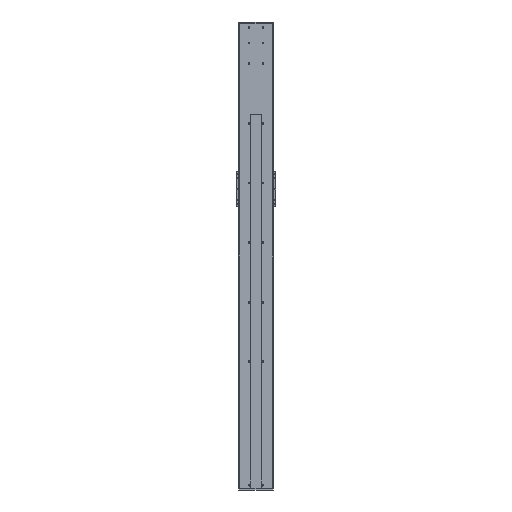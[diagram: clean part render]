
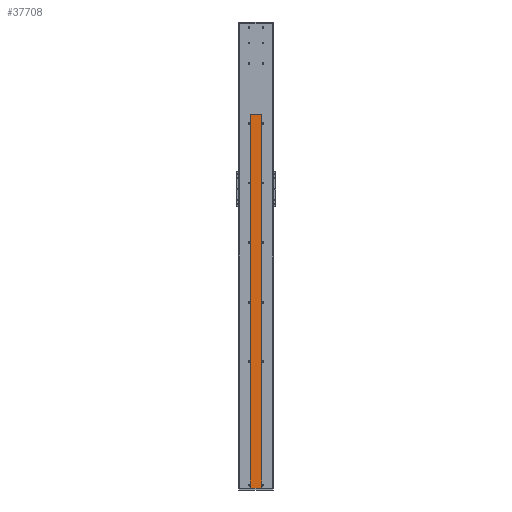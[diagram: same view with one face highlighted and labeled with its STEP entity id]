
A CAD part, front view. The second image highlights one B-rep face of the part: STEP entity #37708.
In plain terms, the highlighted planar face has unit normal (0, -1, 0).
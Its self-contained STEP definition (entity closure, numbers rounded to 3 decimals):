
#1836 = CARTESIAN_POINT ( 'NONE',  ( 1.27, -85.314, 455. ) ) ;
#4502 = EDGE_CURVE ( 'NONE', #34523, #43912, #14681, .T. ) ;
#4838 = VECTOR ( 'NONE', #41264, 1000. ) ;
#5065 = VECTOR ( 'NONE', #15401, 1000. ) ;
#6588 = FACE_OUTER_BOUND ( 'NONE', #16798, .T. ) ;
#6606 = CARTESIAN_POINT ( 'NONE',  ( 58.27, -85.314, 2335. ) ) ;
#9426 = PLANE ( 'NONE',  #33302 ) ;
#9720 = DIRECTION ( 'NONE',  ( 0., 1., 0. ) ) ;
#10036 = CARTESIAN_POINT ( 'NONE',  ( 1.27, -85.314, 455. ) ) ;
#10197 = CARTESIAN_POINT ( 'NONE',  ( 58.27, -85.314, 455. ) ) ;
#12771 = EDGE_CURVE ( 'NONE', #29941, #43912, #37094, .T. ) ;
#13736 = ORIENTED_EDGE ( 'NONE', *, *, #33534, .T. ) ;
#14681 = LINE ( 'NONE', #24879, #39833 ) ;
#15401 = DIRECTION ( 'NONE',  ( 0., 0., 1. ) ) ;
#16282 = CARTESIAN_POINT ( 'NONE',  ( 1.27, -85.314, 455. ) ) ;
#16798 = EDGE_LOOP ( 'NONE', ( #40535, #45009, #25790, #13736 ) ) ;
#24879 = CARTESIAN_POINT ( 'NONE',  ( 1.27, -85.314, 2335. ) ) ;
#25790 = ORIENTED_EDGE ( 'NONE', *, *, #46307, .F. ) ;
#27818 = CARTESIAN_POINT ( 'NONE',  ( 1.27, -85.314, 2335. ) ) ;
#29941 = VERTEX_POINT ( 'NONE', #1836 ) ;
#31101 = CARTESIAN_POINT ( 'NONE',  ( 1.27, -85.314, 455. ) ) ;
#31121 = LINE ( 'NONE', #16282, #4838 ) ;
#33302 = AXIS2_PLACEMENT_3D ( 'NONE', #31101, #9720, #34695 ) ;
#33534 = EDGE_CURVE ( 'NONE', #40228, #34523, #33564, .T. ) ;
#33564 = LINE ( 'NONE', #40396, #5065 ) ;
#34523 = VERTEX_POINT ( 'NONE', #6606 ) ;
#34695 = DIRECTION ( 'NONE',  ( 0., 0., 1. ) ) ;
#37094 = LINE ( 'NONE', #10036, #45427 ) ;
#37708 = ADVANCED_FACE ( 'NONE', ( #6588 ), #9426, .F. ) ;
#38621 = DIRECTION ( 'NONE',  ( 0., 0., 1. ) ) ;
#38966 = DIRECTION ( 'NONE',  ( -1., 0., 0. ) ) ;
#39833 = VECTOR ( 'NONE', #38966, 1000. ) ;
#40228 = VERTEX_POINT ( 'NONE', #10197 ) ;
#40396 = CARTESIAN_POINT ( 'NONE',  ( 58.27, -85.314, 455. ) ) ;
#40535 = ORIENTED_EDGE ( 'NONE', *, *, #4502, .T. ) ;
#41264 = DIRECTION ( 'NONE',  ( -1., 0., 0. ) ) ;
#43912 = VERTEX_POINT ( 'NONE', #27818 ) ;
#45009 = ORIENTED_EDGE ( 'NONE', *, *, #12771, .F. ) ;
#45427 = VECTOR ( 'NONE', #38621, 1000. ) ;
#46307 = EDGE_CURVE ( 'NONE', #40228, #29941, #31121, .T. ) ;
